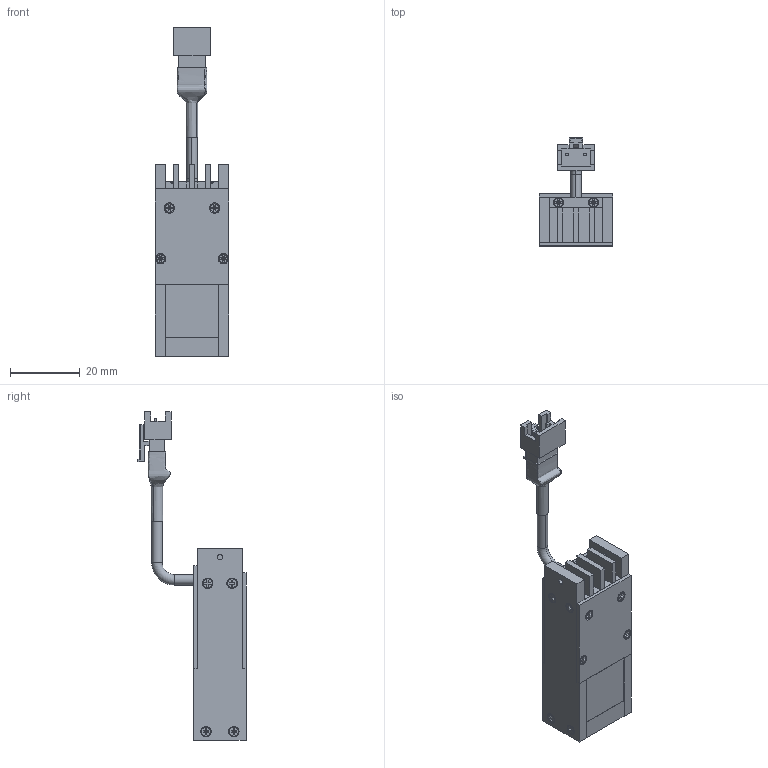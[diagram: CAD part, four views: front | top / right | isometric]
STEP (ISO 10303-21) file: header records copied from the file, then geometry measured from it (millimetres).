
FILE_DESCRIPTION (( 'STEP AP214' ), '1' );
FILE_NAME ('VCOBS-1513_Drawing_L1407A-A00100.SLDPRT.STEP', '2024-12-05T08:50:33', ( '' ), ( '' ), 'SwSTEP 2.0', 'SolidWorks 2018', '' );
FILE_SCHEMA (( 'AUTOMOTIVE_DESIGN' ));
Length unit declared in the file: millimetre
Products named in the file (1): VCOBS-1513_Drawing_L1407A-A00100.SLDPRT
Bounding box: 21 x 30.98 x 94.2 mm (x, y, z)
Surface area: 8878.1 mm2 (no closed solid volume)
Topology: 0 solids, 31 shells, 436 faces, 1331 edges, 920 vertices
Faces by surface type: plane 347, cylinder 49, cone 36, bspline 2, torus 2
Entity records: 20442 total; most frequent: CARTESIAN_POINT 3798, DIRECTION 2403, ORIENTED_EDGE 2188, EDGE_CURVE 1331, LINE 1105, VECTOR 1105, VERTEX_POINT 920, AXIS2_PLACEMENT_3D 649
